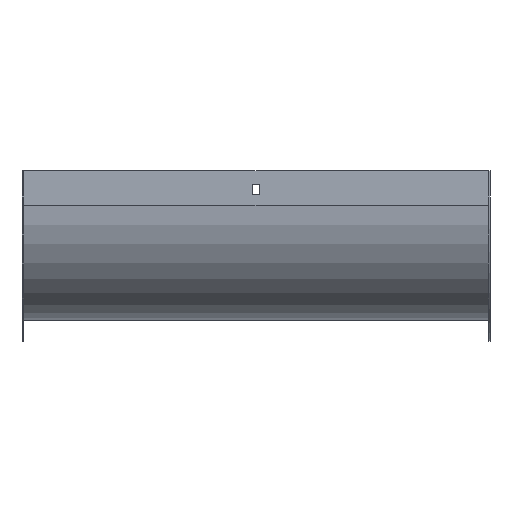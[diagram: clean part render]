
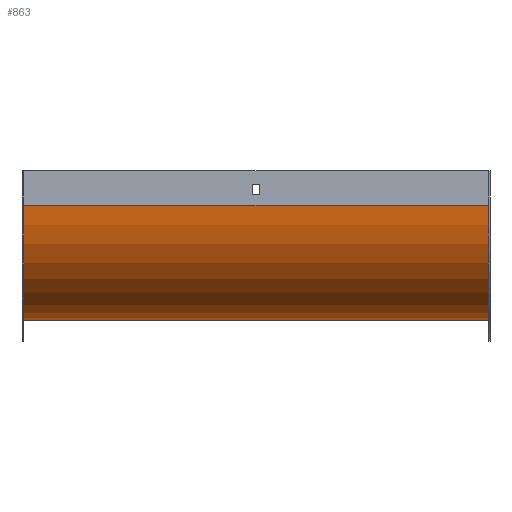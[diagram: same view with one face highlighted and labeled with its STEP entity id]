
A CAD part, front view. The second image highlights one B-rep face of the part: STEP entity #863.
In plain terms, the highlighted cylindrical face has radius 100 mm (diameter 200 mm), a partial arc.
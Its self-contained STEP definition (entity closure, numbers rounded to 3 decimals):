
#31 = CARTESIAN_POINT ( 'NONE',  ( 202., 98.5, -130. ) ) ;
#35 = DIRECTION ( 'NONE',  ( -1., 0., 0. ) ) ;
#41 = DIRECTION ( 'NONE',  ( -1., 0., 0. ) ) ;
#116 = CIRCLE ( 'NONE', #229, 100. ) ;
#124 = EDGE_CURVE ( 'NONE', #246, #773, #671, .T. ) ;
#137 = AXIS2_PLACEMENT_3D ( 'NONE', #758, #35, #607 ) ;
#140 = EDGE_CURVE ( 'NONE', #194, #246, #116, .T. ) ;
#175 = DIRECTION ( 'NONE',  ( -1., 0., 0. ) ) ;
#177 = EDGE_CURVE ( 'NONE', #597, #773, #712, .T. ) ;
#194 = VERTEX_POINT ( 'NONE', #31 ) ;
#212 = AXIS2_PLACEMENT_3D ( 'NONE', #269, #600, #526 ) ;
#214 = CARTESIAN_POINT ( 'NONE',  ( -202., -1.5, -30. ) ) ;
#220 = ORIENTED_EDGE ( 'NONE', *, *, #687, .F. ) ;
#225 = CARTESIAN_POINT ( 'NONE',  ( -202., 98.5, -130. ) ) ;
#229 = AXIS2_PLACEMENT_3D ( 'NONE', #370, #175, #426 ) ;
#246 = VERTEX_POINT ( 'NONE', #633 ) ;
#269 = CARTESIAN_POINT ( 'NONE',  ( 203.5, 98.5, -30. ) ) ;
#332 = FACE_OUTER_BOUND ( 'NONE', #483, .T. ) ;
#370 = CARTESIAN_POINT ( 'NONE',  ( 202., 98.5, -30. ) ) ;
#371 = ORIENTED_EDGE ( 'NONE', *, *, #177, .F. ) ;
#426 = DIRECTION ( 'NONE',  ( 0., 0., -1. ) ) ;
#436 = LINE ( 'NONE', #586, #734 ) ;
#483 = EDGE_LOOP ( 'NONE', ( #371, #220, #759, #785 ) ) ;
#526 = DIRECTION ( 'NONE',  ( 0., 0., 1. ) ) ;
#540 = DIRECTION ( 'NONE',  ( -1., 0., 0. ) ) ;
#586 = CARTESIAN_POINT ( 'NONE',  ( 203.5, 98.5, -130. ) ) ;
#597 = VERTEX_POINT ( 'NONE', #225 ) ;
#600 = DIRECTION ( 'NONE',  ( -1., 0., 0. ) ) ;
#607 = DIRECTION ( 'NONE',  ( 0., 0., -1. ) ) ;
#633 = CARTESIAN_POINT ( 'NONE',  ( 202., -1.5, -30. ) ) ;
#665 = CYLINDRICAL_SURFACE ( 'NONE', #212, 100. ) ;
#671 = LINE ( 'NONE', #805, #751 ) ;
#687 = EDGE_CURVE ( 'NONE', #194, #597, #436, .T. ) ;
#712 = CIRCLE ( 'NONE', #137, 100. ) ;
#734 = VECTOR ( 'NONE', #41, 1000. ) ;
#751 = VECTOR ( 'NONE', #540, 1000. ) ;
#758 = CARTESIAN_POINT ( 'NONE',  ( -202., 98.5, -30. ) ) ;
#759 = ORIENTED_EDGE ( 'NONE', *, *, #140, .T. ) ;
#773 = VERTEX_POINT ( 'NONE', #214 ) ;
#785 = ORIENTED_EDGE ( 'NONE', *, *, #124, .T. ) ;
#805 = CARTESIAN_POINT ( 'NONE',  ( 203.5, -1.5, -30. ) ) ;
#863 = ADVANCED_FACE ( 'NONE', ( #332 ), #665, .T. ) ;
